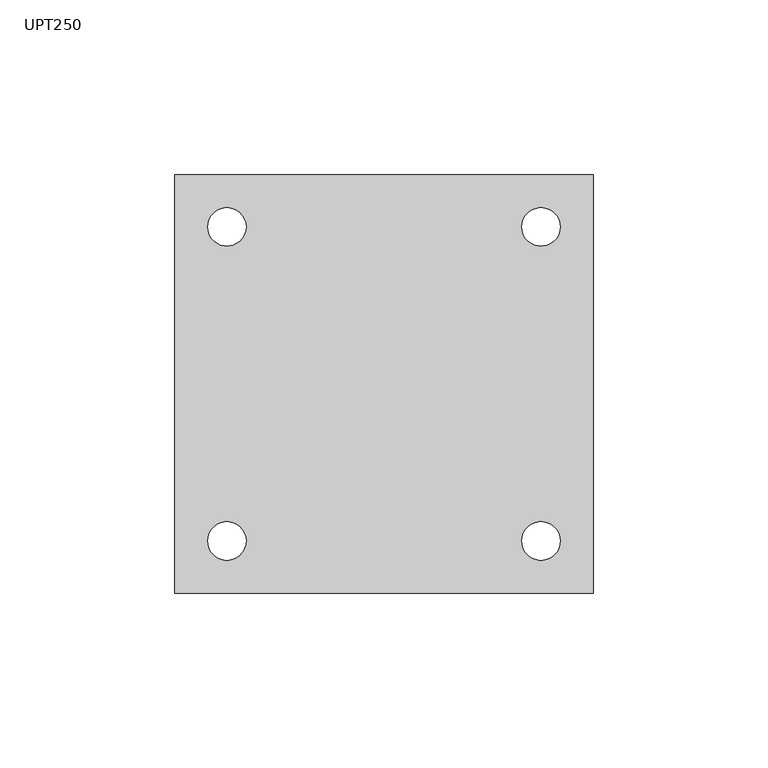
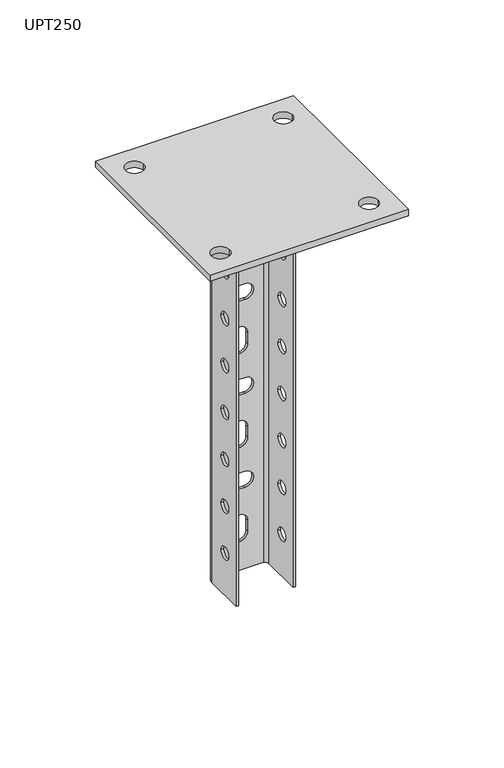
"""IFC4 building model written with IfcOpenShell, lengths in millimetres: proxy geometry, КМ Профиль_Универсальная потолочная стойка UPT : UPT250."""

from ifc_helpers import new_model, si_unit, point, frame, frame_2d, origin, place, context, project, spatial, polyline, circle_curve, trimmed, segment, composite_curve, outline, extrude, source, transform, mapped, element, save
from ifc_brep_helpers import plane_surface, cylinder_surface, revolved_surface, advanced_brep


def upt250_07c40e42(model_context):
    return source(origin(), model_context, "Body", "SolidModel", [
        advanced_brep(
        [(18.0, -14.5, -4.0), (18.0, 11.0, -4.0), (14.5, 14.5, -4.0), (-14.5, 14.5, -4.0), (-18.0, 11.0, -4.0), (-18.0, -14.5, -4.0), (-16.5, -14.5, -4.0), (-16.5, 11.0, -4.0), (-14.5, 13.0, -4.0), (14.5, 13.0, -4.0), (16.5, 11.0, -4.0), (16.5, -14.5, -4.0), (18.0, 11.0, -254.0), (18.0, -14.5, -254.0), (16.5, -14.5, -254.0), (16.5, 11.0, -254.0), (14.5, 13.0, -254.0), (-14.5, 13.0, -254.0), (-16.5, 11.0, -254.0), (-16.5, -14.5, -254.0), (-18.0, -14.5, -254.0), (-18.0, 11.0, -254.0), (-14.5, 14.5, -254.0), (14.5, 14.5, -254.0), (18.0, -7.0, -47.0), (18.0, 1.0, -47.0), (18.0, -7.0, -77.0), (18.0, 1.0, -77.0), (18.0, -7.0, -107.0), (18.0, 1.0, -107.0), (18.0, -7.0, -137.0), (18.0, 1.0, -137.0), (18.0, -7.0, -167.0), (18.0, 1.0, -167.0), (18.0, -7.0, -197.0), (18.0, 1.0, -197.0), (18.0, -7.0, -227.0), (18.0, 1.0, -227.0), (18.0, -7.0, -17.0), (18.0, 1.0, -17.0), (3.5, 14.5, -132.0), (-3.5, 14.5, -132.0), (-3.5, 14.5, -142.0), (3.5, 14.5, -142.0), (3.5, 14.5, -192.0), (-3.5, 14.5, -192.0), (-3.5, 14.5, -202.0), (3.5, 14.5, -202.0), (3.5, 14.5, -72.0), (-3.5, 14.5, -72.0), (-3.5, 14.5, -82.0), (3.5, 14.5, -82.0), (-5.0, 14.5, -103.5), (-5.0, 14.5, -110.5), (5.0, 14.5, -110.5), (5.0, 14.5, -103.5), (-5.0, 14.5, -163.5), (-5.0, 14.5, -170.5), (5.0, 14.5, -170.5), (5.0, 14.5, -163.5), (-5.0, 14.5, -223.5), (-5.0, 14.5, -230.5), (5.0, 14.5, -230.5), (5.0, 14.5, -223.5), (-5.0, 14.5, -43.5), (-5.0, 14.5, -50.5), (5.0, 14.5, -50.5), (5.0, 14.5, -43.5), (3.5, 14.5, -12.0), (-3.5, 14.5, -12.0), (-3.5, 14.5, -22.0), (3.5, 14.5, -22.0), (-18.0, -7.0, -17.0), (-18.0, 1.0, -17.0), (-18.0, -7.0, -47.0), (-18.0, 1.0, -47.0), (-18.0, -7.0, -77.0), (-18.0, 1.0, -77.0), (-18.0, -7.0, -107.0), (-18.0, 1.0, -107.0), (-18.0, -7.0, -137.0), (-18.0, 1.0, -137.0), (-18.0, -7.0, -167.0), (-18.0, 1.0, -167.0), (-18.0, -7.0, -197.0), (-18.0, 1.0, -197.0), (-18.0, -7.0, -227.0), (-18.0, 1.0, -227.0), (-16.5, 1.0, -17.0), (-16.5, -7.0, -17.0), (-16.5, 1.0, -47.0), (-16.5, -7.0, -47.0), (-16.5, 1.0, -77.0), (-16.5, -7.0, -77.0), (-16.5, 1.0, -107.0), (-16.5, -7.0, -107.0), (-16.5, 1.0, -137.0), (-16.5, -7.0, -137.0), (-16.5, 1.0, -167.0), (-16.5, -7.0, -167.0), (-16.5, 1.0, -197.0), (-16.5, -7.0, -197.0), (-16.5, 1.0, -227.0), (-16.5, -7.0, -227.0), (-3.5, 13.0, -132.0), (3.5, 13.0, -132.0), (3.5, 13.0, -142.0), (-3.5, 13.0, -142.0), (-3.5, 13.0, -192.0), (3.5, 13.0, -192.0), (3.5, 13.0, -202.0), (-3.5, 13.0, -202.0), (-3.5, 13.0, -72.0), (3.5, 13.0, -72.0), (3.5, 13.0, -82.0), (-3.5, 13.0, -82.0), (-5.0, 13.0, -110.5), (-5.0, 13.0, -103.5), (5.0, 13.0, -103.5), (5.0, 13.0, -110.5), (-5.0, 13.0, -170.5), (-5.0, 13.0, -163.5), (5.0, 13.0, -163.5), (5.0, 13.0, -170.5), (-5.0, 13.0, -230.5), (-5.0, 13.0, -223.5), (5.0, 13.0, -223.5), (5.0, 13.0, -230.5), (-5.0, 13.0, -50.5), (-5.0, 13.0, -43.5), (5.0, 13.0, -43.5), (5.0, 13.0, -50.5), (-3.5, 13.0, -12.0), (3.5, 13.0, -12.0), (3.5, 13.0, -22.0), (-3.5, 13.0, -22.0), (16.5, 1.0, -47.0), (16.5, -7.0, -47.0), (16.5, 1.0, -77.0), (16.5, -7.0, -77.0), (16.5, 1.0, -107.0), (16.5, -7.0, -107.0), (16.5, 1.0, -137.0), (16.5, -7.0, -137.0), (16.5, 1.0, -167.0), (16.5, -7.0, -167.0), (16.5, 1.0, -197.0), (16.5, -7.0, -197.0), (16.5, 1.0, -227.0), (16.5, -7.0, -227.0), (16.5, 1.0, -17.0), (16.5, -7.0, -17.0)],
        [
            (0, 1),
            (1, 2, circle_curve(frame((14.5, 11.0, -4.0), z_axis=(0.0, 0.0, 1.0), x_axis=(1.0, 0.0, 0.0)), 3.5)),
            (2, 3),
            (3, 4, circle_curve(frame((-14.5, 11.0, -4.0), z_axis=(0.0, 0.0, 1.0), x_axis=(1.0, 0.0, 0.0)), 3.5)),
            (4, 5),
            (5, 6),
            (6, 7),
            (7, 8, circle_curve(frame((-14.5, 11.0, -4.0), z_axis=(0.0, 0.0, -1.0), x_axis=(1.0, 0.0, 0.0)), 2.0)),
            (8, 9),
            (9, 10, circle_curve(frame((14.5, 11.0, -4.0), z_axis=(0.0, 0.0, -1.0), x_axis=(1.0, 0.0, 0.0)), 2.0)),
            (10, 11),
            (11, 0),
            (12, 13),
            (13, 14),
            (14, 15),
            (15, 16, circle_curve(frame((14.5, 11.0, -254.0), z_axis=(0.0, 0.0, 1.0), x_axis=(1.0, 0.0, 0.0)), 2.0)),
            (16, 17),
            (17, 18, circle_curve(frame((-14.5, 11.0, -254.0), z_axis=(0.0, 0.0, 1.0), x_axis=(1.0, 0.0, 0.0)), 2.0)),
            (18, 19),
            (19, 20),
            (20, 21),
            (21, 22, circle_curve(frame((-14.5, 11.0, -254.0), z_axis=(0.0, 0.0, -1.0), x_axis=(1.0, 0.0, 0.0)), 3.5)),
            (22, 23),
            (23, 12, circle_curve(frame((14.5, 11.0, -254.0), z_axis=(0.0, 0.0, -1.0), x_axis=(1.0, 0.0, 0.0)), 3.5)),
            (0, 13),
            (12, 1),
            (24, 25, circle_curve(frame((18.0, -3.0, -47.0), z_axis=(-1.0, 0.0, 0.0), x_axis=(0.0, -1.0, 0.0)), 4.0)),
            (25, 24, circle_curve(frame((18.0, -3.0, -47.0), z_axis=(-1.0, 0.0, 0.0), x_axis=(0.0, -1.0, 0.0)), 4.0)),
            (26, 27, circle_curve(frame((18.0, -3.0, -77.0), z_axis=(-1.0, 0.0, 0.0), x_axis=(0.0, -1.0, 0.0)), 4.0)),
            (27, 26, circle_curve(frame((18.0, -3.0, -77.0), z_axis=(-1.0, 0.0, 0.0), x_axis=(0.0, -1.0, 0.0)), 4.0)),
            (28, 29, circle_curve(frame((18.0, -3.0, -107.0), z_axis=(-1.0, 0.0, 0.0), x_axis=(0.0, -1.0, 0.0)), 4.0)),
            (29, 28, circle_curve(frame((18.0, -3.0, -107.0), z_axis=(-1.0, 0.0, 0.0), x_axis=(0.0, -1.0, 0.0)), 4.0)),
            (30, 31, circle_curve(frame((18.0, -3.0, -137.0), z_axis=(-1.0, 0.0, 0.0), x_axis=(0.0, -1.0, 0.0)), 4.0)),
            (31, 30, circle_curve(frame((18.0, -3.0, -137.0), z_axis=(-1.0, 0.0, 0.0), x_axis=(0.0, -1.0, 0.0)), 4.0)),
            (32, 33, circle_curve(frame((18.0, -3.0, -167.0), z_axis=(-1.0, 0.0, 0.0), x_axis=(0.0, -1.0, 0.0)), 4.0)),
            (33, 32, circle_curve(frame((18.0, -3.0, -167.0), z_axis=(-1.0, 0.0, 0.0), x_axis=(0.0, -1.0, 0.0)), 4.0)),
            (34, 35, circle_curve(frame((18.0, -3.0, -197.0), z_axis=(-1.0, 0.0, 0.0), x_axis=(0.0, -1.0, 0.0)), 4.0)),
            (35, 34, circle_curve(frame((18.0, -3.0, -197.0), z_axis=(-1.0, 0.0, 0.0), x_axis=(0.0, -1.0, 0.0)), 4.0)),
            (36, 37, circle_curve(frame((18.0, -3.0, -227.0), z_axis=(-1.0, 0.0, 0.0), x_axis=(0.0, -1.0, 0.0)), 4.0)),
            (37, 36, circle_curve(frame((18.0, -3.0, -227.0), z_axis=(-1.0, 0.0, 0.0), x_axis=(0.0, -1.0, 0.0)), 4.0)),
            (38, 39, circle_curve(frame((18.0, -3.0, -17.0), z_axis=(-1.0, 0.0, 0.0), x_axis=(0.0, -1.0, 0.0)), 4.0)),
            (39, 38, circle_curve(frame((18.0, -3.0, -17.0), z_axis=(-1.0, 0.0, 0.0), x_axis=(0.0, -1.0, 0.0)), 4.0)),
            (23, 2),
            (22, 3),
            (40, 41),
            (41, 42, circle_curve(frame((-3.5, 14.5, -137.0), z_axis=(0.0, -1.0, 0.0), x_axis=(-1.0, 0.0, 0.0)), 5.0)),
            (42, 43),
            (43, 40, circle_curve(frame((3.5, 14.5, -137.0), z_axis=(0.0, -1.0, 0.0), x_axis=(-1.0, 0.0, 0.0)), 5.0)),
            (44, 45),
            (45, 46, circle_curve(frame((-3.5, 14.5, -197.0), z_axis=(0.0, -1.0, 0.0), x_axis=(-1.0, 0.0, 0.0)), 5.0)),
            (46, 47),
            (47, 44, circle_curve(frame((3.5, 14.5, -197.0), z_axis=(0.0, -1.0, 0.0), x_axis=(-1.0, 0.0, 0.0)), 5.0)),
            (48, 49),
            (49, 50, circle_curve(frame((-3.5, 14.5, -77.0), z_axis=(0.0, -1.0, 0.0), x_axis=(-1.0, 0.0, 0.0)), 5.0)),
            (50, 51),
            (51, 48, circle_curve(frame((3.5, 14.5, -77.0), z_axis=(0.0, -1.0, 0.0), x_axis=(-1.0, 0.0, 0.0)), 5.0)),
            (52, 53),
            (53, 54, circle_curve(frame((0.0, 14.5, -110.5), z_axis=(0.0, -1.0, 0.0), x_axis=(0.0, 0.0, -1.0)), 5.0)),
            (54, 55),
            (55, 52, circle_curve(frame((0.0, 14.5, -103.5), z_axis=(0.0, -1.0, 0.0), x_axis=(0.0, 0.0, -1.0)), 5.0)),
            (56, 57),
            (57, 58, circle_curve(frame((0.0, 14.5, -170.5), z_axis=(0.0, -1.0, 0.0), x_axis=(0.0, 0.0, -1.0)), 5.0)),
            (58, 59),
            (59, 56, circle_curve(frame((0.0, 14.5, -163.5), z_axis=(0.0, -1.0, 0.0), x_axis=(0.0, 0.0, -1.0)), 5.0)),
            (60, 61),
            (61, 62, circle_curve(frame((0.0, 14.5, -230.5), z_axis=(0.0, -1.0, 0.0), x_axis=(0.0, 0.0, -1.0)), 5.0)),
            (62, 63),
            (63, 60, circle_curve(frame((0.0, 14.5, -223.5), z_axis=(0.0, -1.0, 0.0), x_axis=(0.0, 0.0, -1.0)), 5.0)),
            (64, 65),
            (65, 66, circle_curve(frame((0.0, 14.5, -50.5), z_axis=(0.0, -1.0, 0.0), x_axis=(0.0, 0.0, -1.0)), 5.0)),
            (66, 67),
            (67, 64, circle_curve(frame((0.0, 14.5, -43.5), z_axis=(0.0, -1.0, 0.0), x_axis=(0.0, 0.0, -1.0)), 5.0)),
            (68, 69),
            (69, 70, circle_curve(frame((-3.5, 14.5, -17.0), z_axis=(0.0, -1.0, 0.0), x_axis=(-1.0, 0.0, 0.0)), 5.0)),
            (70, 71),
            (71, 68, circle_curve(frame((3.5, 14.5, -17.0), z_axis=(0.0, -1.0, 0.0), x_axis=(-1.0, 0.0, 0.0)), 5.0)),
            (21, 4),
            (20, 5),
            (72, 73, circle_curve(frame((-18.0, -3.0, -17.0), z_axis=(1.0, 0.0, 0.0), x_axis=(0.0, -1.0, 0.0)), 4.0)),
            (73, 72, circle_curve(frame((-18.0, -3.0, -17.0), z_axis=(1.0, 0.0, 0.0), x_axis=(0.0, -1.0, 0.0)), 4.0)),
            (74, 75, circle_curve(frame((-18.0, -3.0, -47.0), z_axis=(1.0, 0.0, 0.0), x_axis=(0.0, -1.0, 0.0)), 4.0)),
            (75, 74, circle_curve(frame((-18.0, -3.0, -47.0), z_axis=(1.0, 0.0, 0.0), x_axis=(0.0, -1.0, 0.0)), 4.0)),
            (76, 77, circle_curve(frame((-18.0, -3.0, -77.0), z_axis=(1.0, 0.0, 0.0), x_axis=(0.0, -1.0, 0.0)), 4.0)),
            (77, 76, circle_curve(frame((-18.0, -3.0, -77.0), z_axis=(1.0, 0.0, 0.0), x_axis=(0.0, -1.0, 0.0)), 4.0)),
            (78, 79, circle_curve(frame((-18.0, -3.0, -107.0), z_axis=(1.0, 0.0, 0.0), x_axis=(0.0, -1.0, 0.0)), 4.0)),
            (79, 78, circle_curve(frame((-18.0, -3.0, -107.0), z_axis=(1.0, 0.0, 0.0), x_axis=(0.0, -1.0, 0.0)), 4.0)),
            (80, 81, circle_curve(frame((-18.0, -3.0, -137.0), z_axis=(1.0, 0.0, 0.0), x_axis=(0.0, -1.0, 0.0)), 4.0)),
            (81, 80, circle_curve(frame((-18.0, -3.0, -137.0), z_axis=(1.0, 0.0, 0.0), x_axis=(0.0, -1.0, 0.0)), 4.0)),
            (82, 83, circle_curve(frame((-18.0, -3.0, -167.0), z_axis=(1.0, 0.0, 0.0), x_axis=(0.0, -1.0, 0.0)), 4.0)),
            (83, 82, circle_curve(frame((-18.0, -3.0, -167.0), z_axis=(1.0, 0.0, 0.0), x_axis=(0.0, -1.0, 0.0)), 4.0)),
            (84, 85, circle_curve(frame((-18.0, -3.0, -197.0), z_axis=(1.0, 0.0, 0.0), x_axis=(0.0, -1.0, 0.0)), 4.0)),
            (85, 84, circle_curve(frame((-18.0, -3.0, -197.0), z_axis=(1.0, 0.0, 0.0), x_axis=(0.0, -1.0, 0.0)), 4.0)),
            (86, 87, circle_curve(frame((-18.0, -3.0, -227.0), z_axis=(1.0, 0.0, 0.0), x_axis=(0.0, -1.0, 0.0)), 4.0)),
            (87, 86, circle_curve(frame((-18.0, -3.0, -227.0), z_axis=(1.0, 0.0, 0.0), x_axis=(0.0, -1.0, 0.0)), 4.0)),
            (19, 6),
            (18, 7),
            (88, 89, circle_curve(frame((-16.5, -3.0, -17.0), z_axis=(-1.0, 0.0, 0.0), x_axis=(0.0, -1.0, 0.0)), 4.0)),
            (89, 88, circle_curve(frame((-16.5, -3.0, -17.0), z_axis=(-1.0, 0.0, 0.0), x_axis=(0.0, -1.0, 0.0)), 4.0)),
            (90, 91, circle_curve(frame((-16.5, -3.0, -47.0), z_axis=(-1.0, 0.0, 0.0), x_axis=(0.0, -1.0, 0.0)), 4.0)),
            (91, 90, circle_curve(frame((-16.5, -3.0, -47.0), z_axis=(-1.0, 0.0, 0.0), x_axis=(0.0, -1.0, 0.0)), 4.0)),
            (92, 93, circle_curve(frame((-16.5, -3.0, -77.0), z_axis=(-1.0, 0.0, 0.0), x_axis=(0.0, -1.0, 0.0)), 4.0)),
            (93, 92, circle_curve(frame((-16.5, -3.0, -77.0), z_axis=(-1.0, 0.0, 0.0), x_axis=(0.0, -1.0, 0.0)), 4.0)),
            (94, 95, circle_curve(frame((-16.5, -3.0, -107.0), z_axis=(-1.0, 0.0, 0.0), x_axis=(0.0, -1.0, 0.0)), 4.0)),
            (95, 94, circle_curve(frame((-16.5, -3.0, -107.0), z_axis=(-1.0, 0.0, 0.0), x_axis=(0.0, -1.0, 0.0)), 4.0)),
            (96, 97, circle_curve(frame((-16.5, -3.0, -137.0), z_axis=(-1.0, 0.0, 0.0), x_axis=(0.0, -1.0, 0.0)), 4.0)),
            (97, 96, circle_curve(frame((-16.5, -3.0, -137.0), z_axis=(-1.0, 0.0, 0.0), x_axis=(0.0, -1.0, 0.0)), 4.0)),
            (98, 99, circle_curve(frame((-16.5, -3.0, -167.0), z_axis=(-1.0, 0.0, 0.0), x_axis=(0.0, -1.0, 0.0)), 4.0)),
            (99, 98, circle_curve(frame((-16.5, -3.0, -167.0), z_axis=(-1.0, 0.0, 0.0), x_axis=(0.0, -1.0, 0.0)), 4.0)),
            (100, 101, circle_curve(frame((-16.5, -3.0, -197.0), z_axis=(-1.0, 0.0, 0.0), x_axis=(0.0, -1.0, 0.0)), 4.0)),
            (101, 100, circle_curve(frame((-16.5, -3.0, -197.0), z_axis=(-1.0, 0.0, 0.0), x_axis=(0.0, -1.0, 0.0)), 4.0)),
            (102, 103, circle_curve(frame((-16.5, -3.0, -227.0), z_axis=(-1.0, 0.0, 0.0), x_axis=(0.0, -1.0, 0.0)), 4.0)),
            (103, 102, circle_curve(frame((-16.5, -3.0, -227.0), z_axis=(-1.0, 0.0, 0.0), x_axis=(0.0, -1.0, 0.0)), 4.0)),
            (17, 8),
            (16, 9),
            (104, 105),
            (105, 106, circle_curve(frame((3.5, 13.0, -137.0), z_axis=(0.0, 1.0, 0.0), x_axis=(-1.0, 0.0, 0.0)), 5.0)),
            (106, 107),
            (107, 104, circle_curve(frame((-3.5, 13.0, -137.0), z_axis=(0.0, 1.0, 0.0), x_axis=(-1.0, 0.0, 0.0)), 5.0)),
            (108, 109),
            (109, 110, circle_curve(frame((3.5, 13.0, -197.0), z_axis=(0.0, 1.0, 0.0), x_axis=(-1.0, 0.0, 0.0)), 5.0)),
            (110, 111),
            (111, 108, circle_curve(frame((-3.5, 13.0, -197.0), z_axis=(0.0, 1.0, 0.0), x_axis=(-1.0, 0.0, 0.0)), 5.0)),
            (112, 113),
            (113, 114, circle_curve(frame((3.5, 13.0, -77.0), z_axis=(0.0, 1.0, 0.0), x_axis=(-1.0, 0.0, 0.0)), 5.0)),
            (114, 115),
            (115, 112, circle_curve(frame((-3.5, 13.0, -77.0), z_axis=(0.0, 1.0, 0.0), x_axis=(-1.0, 0.0, 0.0)), 5.0)),
            (116, 117),
            (117, 118, circle_curve(frame((0.0, 13.0, -103.5), z_axis=(0.0, 1.0, 0.0), x_axis=(0.0, 0.0, -1.0)), 5.0)),
            (118, 119),
            (119, 116, circle_curve(frame((0.0, 13.0, -110.5), z_axis=(0.0, 1.0, 0.0), x_axis=(0.0, 0.0, -1.0)), 5.0)),
            (120, 121),
            (121, 122, circle_curve(frame((0.0, 13.0, -163.5), z_axis=(0.0, 1.0, 0.0), x_axis=(0.0, 0.0, -1.0)), 5.0)),
            (122, 123),
            (123, 120, circle_curve(frame((0.0, 13.0, -170.5), z_axis=(0.0, 1.0, 0.0), x_axis=(0.0, 0.0, -1.0)), 5.0)),
            (124, 125),
            (125, 126, circle_curve(frame((0.0, 13.0, -223.5), z_axis=(0.0, 1.0, 0.0), x_axis=(0.0, 0.0, -1.0)), 5.0)),
            (126, 127),
            (127, 124, circle_curve(frame((0.0, 13.0, -230.5), z_axis=(0.0, 1.0, 0.0), x_axis=(0.0, 0.0, -1.0)), 5.0)),
            (128, 129),
            (129, 130, circle_curve(frame((0.0, 13.0, -43.5), z_axis=(0.0, 1.0, 0.0), x_axis=(0.0, 0.0, -1.0)), 5.0)),
            (130, 131),
            (131, 128, circle_curve(frame((0.0, 13.0, -50.5), z_axis=(0.0, 1.0, 0.0), x_axis=(0.0, 0.0, -1.0)), 5.0)),
            (132, 133),
            (133, 134, circle_curve(frame((3.5, 13.0, -17.0), z_axis=(0.0, 1.0, 0.0), x_axis=(-1.0, 0.0, 0.0)), 5.0)),
            (134, 135),
            (135, 132, circle_curve(frame((-3.5, 13.0, -17.0), z_axis=(0.0, 1.0, 0.0), x_axis=(-1.0, 0.0, 0.0)), 5.0)),
            (15, 10),
            (14, 11),
            (136, 137, circle_curve(frame((16.5, -3.0, -47.0), z_axis=(1.0, 0.0, 0.0), x_axis=(0.0, -1.0, 0.0)), 4.0)),
            (137, 136, circle_curve(frame((16.5, -3.0, -47.0), z_axis=(1.0, 0.0, 0.0), x_axis=(0.0, -1.0, 0.0)), 4.0)),
            (138, 139, circle_curve(frame((16.5, -3.0, -77.0), z_axis=(1.0, 0.0, 0.0), x_axis=(0.0, -1.0, 0.0)), 4.0)),
            (139, 138, circle_curve(frame((16.5, -3.0, -77.0), z_axis=(1.0, 0.0, 0.0), x_axis=(0.0, -1.0, 0.0)), 4.0)),
            (140, 141, circle_curve(frame((16.5, -3.0, -107.0), z_axis=(1.0, 0.0, 0.0), x_axis=(0.0, -1.0, 0.0)), 4.0)),
            (141, 140, circle_curve(frame((16.5, -3.0, -107.0), z_axis=(1.0, 0.0, 0.0), x_axis=(0.0, -1.0, 0.0)), 4.0)),
            (142, 143, circle_curve(frame((16.5, -3.0, -137.0), z_axis=(1.0, 0.0, 0.0), x_axis=(0.0, -1.0, 0.0)), 4.0)),
            (143, 142, circle_curve(frame((16.5, -3.0, -137.0), z_axis=(1.0, 0.0, 0.0), x_axis=(0.0, -1.0, 0.0)), 4.0)),
            (144, 145, circle_curve(frame((16.5, -3.0, -167.0), z_axis=(1.0, 0.0, 0.0), x_axis=(0.0, -1.0, 0.0)), 4.0)),
            (145, 144, circle_curve(frame((16.5, -3.0, -167.0), z_axis=(1.0, 0.0, 0.0), x_axis=(0.0, -1.0, 0.0)), 4.0)),
            (146, 147, circle_curve(frame((16.5, -3.0, -197.0), z_axis=(1.0, 0.0, 0.0), x_axis=(0.0, -1.0, 0.0)), 4.0)),
            (147, 146, circle_curve(frame((16.5, -3.0, -197.0), z_axis=(1.0, 0.0, 0.0), x_axis=(0.0, -1.0, 0.0)), 4.0)),
            (148, 149, circle_curve(frame((16.5, -3.0, -227.0), z_axis=(1.0, 0.0, 0.0), x_axis=(0.0, -1.0, 0.0)), 4.0)),
            (149, 148, circle_curve(frame((16.5, -3.0, -227.0), z_axis=(1.0, 0.0, 0.0), x_axis=(0.0, -1.0, 0.0)), 4.0)),
            (150, 151, circle_curve(frame((16.5, -3.0, -17.0), z_axis=(1.0, 0.0, 0.0), x_axis=(0.0, -1.0, 0.0)), 4.0)),
            (151, 150, circle_curve(frame((16.5, -3.0, -17.0), z_axis=(1.0, 0.0, 0.0), x_axis=(0.0, -1.0, 0.0)), 4.0)),
            (40, 105),
            (104, 41),
            (43, 106),
            (42, 107),
            (44, 109),
            (108, 45),
            (47, 110),
            (46, 111),
            (48, 113),
            (112, 49),
            (51, 114),
            (50, 115),
            (52, 117),
            (116, 53),
            (55, 118),
            (54, 119),
            (56, 121),
            (120, 57),
            (59, 122),
            (58, 123),
            (60, 125),
            (124, 61),
            (63, 126),
            (62, 127),
            (72, 89),
            (88, 73),
            (24, 137),
            (136, 25),
            (74, 91),
            (90, 75),
            (26, 139),
            (138, 27),
            (76, 93),
            (92, 77),
            (28, 141),
            (140, 29),
            (78, 95),
            (94, 79),
            (30, 143),
            (142, 31),
            (80, 97),
            (96, 81),
            (32, 145),
            (144, 33),
            (82, 99),
            (98, 83),
            (34, 147),
            (146, 35),
            (84, 101),
            (100, 85),
            (36, 149),
            (148, 37),
            (86, 103),
            (102, 87),
            (38, 151),
            (150, 39),
            (64, 129),
            (128, 65),
            (67, 130),
            (66, 131),
            (68, 133),
            (132, 69),
            (71, 134),
            (70, 135),
        ],
        [
            plane_surface(frame((18.0, 11.0, -4.0), z_axis=(0.0, 0.0, 1.0), x_axis=(0.0, 1.0, 0.0))),
            plane_surface(frame((18.0, 11.0, -254.0), z_axis=(0.0, 0.0, -1.0), x_axis=(0.0, -1.0, 0.0))),
            plane_surface(frame((18.0, -14.5, -4.0), z_axis=(1.0, 0.0, 0.0), x_axis=(0.0, 0.0, -1.0))),
            cylinder_surface(frame((14.5, 11.0, -254.0), z_axis=(0.0, 0.0, 1.0), x_axis=(1.0, 0.0, 0.0)), 3.5),
            plane_surface(frame((14.5, 14.5, -4.0), z_axis=(0.0, 1.0, 0.0), x_axis=(0.0, 0.0, -1.0))),
            cylinder_surface(frame((-14.5, 11.0, -254.0), z_axis=(0.0, 0.0, 1.0), x_axis=(1.0, 0.0, 0.0)), 3.5),
            plane_surface(frame((-18.0, 11.0, -4.0), z_axis=(-1.0, 0.0, 0.0), x_axis=(0.0, 0.0, -1.0))),
            plane_surface(frame((-18.0, -14.5, -4.0), z_axis=(0.0, -1.0, 0.0), x_axis=(0.0, 0.0, -1.0))),
            plane_surface(frame((-16.5, -14.5, -4.0), z_axis=(1.0, 0.0, 0.0), x_axis=(0.0, 0.0, -1.0))),
            revolved_surface(polyline([(-12.5, 11.0, -254.0), (-12.5, 11.0, -4.0)]), (-14.5, 11.0, -254.0), (0.0, 0.0, -1.0)),
            plane_surface(frame((-14.5, 13.0, -4.0), z_axis=(0.0, -1.0, 0.0), x_axis=(0.0, 0.0, -1.0))),
            revolved_surface(polyline([(16.5, 11.0, -254.0), (16.5, 11.0, -4.0)]), (14.5, 11.0, -254.0), (0.0, 0.0, -1.0)),
            plane_surface(frame((16.5, 11.0, -4.0), z_axis=(-1.0, 0.0, 0.0), x_axis=(0.0, 0.0, -1.0))),
            plane_surface(frame((16.5, -14.5, -4.0), z_axis=(0.0, -1.0, 0.0), x_axis=(0.0, 0.0, -1.0))),
            plane_surface(frame((-3.5, 14.5, -132.0), z_axis=(0.0, 0.0, -1.0), x_axis=(0.0, -1.0, 0.0))),
            revolved_surface(polyline([(-1.5, 14.5, -137.0), (-1.5, 13.0, -137.0)]), (3.5, 13.0, -137.0), (0.0, 1.0, 0.0)),
            plane_surface(frame((3.5, 14.5, -142.0), z_axis=(0.0, 0.0, 1.0), x_axis=(0.0, -1.0, 0.0))),
            revolved_surface(polyline([(-8.5, 14.5, -137.0), (-8.5, 13.0, -137.0)]), (-3.5, 13.0, -137.0), (0.0, 1.0, 0.0)),
            plane_surface(frame((-3.5, 14.5, -192.0), z_axis=(0.0, 0.0, -1.0), x_axis=(0.0, -1.0, 0.0))),
            revolved_surface(polyline([(-1.5, 14.5, -197.0), (-1.5, 13.0, -197.0)]), (3.5, 13.0, -197.0), (0.0, 1.0, 0.0)),
            plane_surface(frame((3.5, 14.5, -202.0), z_axis=(0.0, 0.0, 1.0), x_axis=(0.0, -1.0, 0.0))),
            revolved_surface(polyline([(-8.5, 14.5, -197.0), (-8.5, 13.0, -197.0)]), (-3.5, 13.0, -197.0), (0.0, 1.0, 0.0)),
            plane_surface(frame((-3.5, 14.5, -72.0), z_axis=(0.0, 0.0, -1.0), x_axis=(0.0, -1.0, 0.0))),
            revolved_surface(polyline([(-1.5, 14.5, -77.0), (-1.5, 13.0, -77.0)]), (3.5, 13.0, -77.0), (0.0, 1.0, 0.0)),
            plane_surface(frame((3.5, 14.5, -82.0), z_axis=(0.0, 0.0, 1.0), x_axis=(0.0, -1.0, 0.0))),
            revolved_surface(polyline([(-8.5, 14.5, -77.0), (-8.5, 13.0, -77.0)]), (-3.5, 13.0, -77.0), (0.0, 1.0, 0.0)),
            plane_surface(frame((-5.0, 14.5, -110.5), z_axis=(1.0, 0.0, 0.0), x_axis=(0.0, -1.0, 0.0))),
            revolved_surface(polyline([(0.0, 14.5, -108.5), (0.0, 13.0, -108.5)]), (0.0, 13.0, -103.5), (0.0, 1.0, 0.0)),
            plane_surface(frame((5.0, 14.5, -103.5), z_axis=(-1.0, 0.0, 0.0), x_axis=(0.0, -1.0, 0.0))),
            revolved_surface(polyline([(0.0, 14.5, -115.5), (0.0, 13.0, -115.5)]), (0.0, 13.0, -110.5), (0.0, 1.0, 0.0)),
            plane_surface(frame((-5.0, 14.5, -170.5), z_axis=(1.0, 0.0, 0.0), x_axis=(0.0, -1.0, 0.0))),
            revolved_surface(polyline([(0.0, 14.5, -168.5), (0.0, 13.0, -168.5)]), (0.0, 13.0, -163.5), (0.0, 1.0, 0.0)),
            plane_surface(frame((5.0, 14.5, -163.5), z_axis=(-1.0, 0.0, 0.0), x_axis=(0.0, -1.0, 0.0))),
            revolved_surface(polyline([(0.0, 14.5, -175.5), (0.0, 13.0, -175.5)]), (0.0, 13.0, -170.5), (0.0, 1.0, 0.0)),
            plane_surface(frame((-5.0, 14.5, -230.5), z_axis=(1.0, 0.0, 0.0), x_axis=(0.0, -1.0, 0.0))),
            revolved_surface(polyline([(0.0, 14.5, -228.5), (0.0, 13.0, -228.5)]), (0.0, 13.0, -223.5), (0.0, 1.0, 0.0)),
            plane_surface(frame((5.0, 14.5, -223.5), z_axis=(-1.0, 0.0, 0.0), x_axis=(0.0, -1.0, 0.0))),
            revolved_surface(polyline([(0.0, 14.5, -235.5), (0.0, 13.0, -235.5)]), (0.0, 13.0, -230.5), (0.0, 1.0, 0.0)),
            revolved_surface(polyline([(-18.0, -7.0, -17.0), (-16.5, -7.0, -17.0)]), (-16.5, -3.0, -17.0), (-1.0, 0.0, 0.0)),
            revolved_surface(polyline([(18.0, -7.0, -47.0), (16.5, -7.0, -47.0)]), (16.5, -3.0, -47.0), (1.0, 0.0, 0.0)),
            revolved_surface(polyline([(-18.0, -7.0, -47.0), (-16.5, -7.0, -47.0)]), (-16.5, -3.0, -47.0), (-1.0, 0.0, 0.0)),
            revolved_surface(polyline([(18.0, -7.0, -77.0), (16.5, -7.0, -77.0)]), (16.5, -3.0, -77.0), (1.0, 0.0, 0.0)),
            revolved_surface(polyline([(-18.0, -7.0, -77.0), (-16.5, -7.0, -77.0)]), (-16.5, -3.0, -77.0), (-1.0, 0.0, 0.0)),
            revolved_surface(polyline([(18.0, -7.0, -107.0), (16.5, -7.0, -107.0)]), (16.5, -3.0, -107.0), (1.0, 0.0, 0.0)),
            revolved_surface(polyline([(-18.0, -7.0, -107.0), (-16.5, -7.0, -107.0)]), (-16.5, -3.0, -107.0), (-1.0, 0.0, 0.0)),
            revolved_surface(polyline([(18.0, -7.0, -137.0), (16.5, -7.0, -137.0)]), (16.5, -3.0, -137.0), (1.0, 0.0, 0.0)),
            revolved_surface(polyline([(-18.0, -7.0, -137.0), (-16.5, -7.0, -137.0)]), (-16.5, -3.0, -137.0), (-1.0, 0.0, 0.0)),
            revolved_surface(polyline([(18.0, -7.0, -167.0), (16.5, -7.0, -167.0)]), (16.5, -3.0, -167.0), (1.0, 0.0, 0.0)),
            revolved_surface(polyline([(-18.0, -7.0, -167.0), (-16.5, -7.0, -167.0)]), (-16.5, -3.0, -167.0), (-1.0, 0.0, 0.0)),
            revolved_surface(polyline([(18.0, -7.0, -197.0), (16.5, -7.0, -197.0)]), (16.5, -3.0, -197.0), (1.0, 0.0, 0.0)),
            revolved_surface(polyline([(-18.0, -7.0, -197.0), (-16.5, -7.0, -197.0)]), (-16.5, -3.0, -197.0), (-1.0, 0.0, 0.0)),
            revolved_surface(polyline([(18.0, -7.0, -227.0), (16.5, -7.0, -227.0)]), (16.5, -3.0, -227.0), (1.0, 0.0, 0.0)),
            revolved_surface(polyline([(-18.0, -7.0, -227.0), (-16.5, -7.0, -227.0)]), (-16.5, -3.0, -227.0), (-1.0, 0.0, 0.0)),
            revolved_surface(polyline([(18.0, -7.0, -17.0), (16.5, -7.0, -17.0)]), (16.5, -3.0, -17.0), (1.0, 0.0, 0.0)),
            plane_surface(frame((-5.0, 14.5, -50.5), z_axis=(1.0, 0.0, 0.0), x_axis=(0.0, -1.0, 0.0))),
            revolved_surface(polyline([(0.0, 14.5, -48.5), (0.0, 13.0, -48.5)]), (0.0, 13.0, -43.5), (0.0, 1.0, 0.0)),
            plane_surface(frame((5.0, 14.5, -43.5), z_axis=(-1.0, 0.0, 0.0), x_axis=(0.0, -1.0, 0.0))),
            revolved_surface(polyline([(0.0, 14.5, -55.5), (0.0, 13.0, -55.5)]), (0.0, 13.0, -50.5), (0.0, 1.0, 0.0)),
            plane_surface(frame((-3.5, 14.5, -12.0), z_axis=(0.0, 0.0, -1.0), x_axis=(0.0, -1.0, 0.0))),
            revolved_surface(polyline([(-1.5, 14.5, -17.0), (-1.5, 13.0, -17.0)]), (3.5, 13.0, -17.0), (0.0, 1.0, 0.0)),
            plane_surface(frame((3.5, 14.5, -22.0), z_axis=(0.0, 0.0, 1.0), x_axis=(0.0, -1.0, 0.0))),
            revolved_surface(polyline([(-8.5, 14.5, -17.0), (-8.5, 13.0, -17.0)]), (-3.5, 13.0, -17.0), (0.0, 1.0, 0.0)),
        ],
        [
            (0, [[1, 2, 3, 4, 5, 6, 7, 8, 9, 10, 11, 12]]),
            (1, [[13, 14, 15, 16, 17, 18, 19, 20, 21, 22, 23, 24]]),
            (2, [[-1, 25, -13, 26], [27, 28], [29, 30], [31, 32], [33, 34], [35, 36], [37, 38], [39, 40], [41, 42]]),
            (3, [[-2, -26, -24, 43]]),
            (4, [[-3, -43, -23, 44], [45, 46, 47, 48], [49, 50, 51, 52], [53, 54, 55, 56], [57, 58, 59, 60], [61, 62, 63, 64], [65, 66, 67, 68], [69, 70, 71, 72], [73, 74, 75, 76]]),
            (5, [[-4, -44, -22, 77]]),
            (6, [[-5, -77, -21, 78], [79, 80], [81, 82], [83, 84], [85, 86], [87, 88], [89, 90], [91, 92], [93, 94]]),
            (7, [[-6, -78, -20, 95]]),
            (8, [[-7, -95, -19, 96], [97, 98], [99, 100], [101, 102], [103, 104], [105, 106], [107, 108], [109, 110], [111, 112]]),
            (9, [[-8, -96, -18, 113]]),
            (10, [[-9, -113, -17, 114], [115, 116, 117, 118], [119, 120, 121, 122], [123, 124, 125, 126], [127, 128, 129, 130], [131, 132, 133, 134], [135, 136, 137, 138], [139, 140, 141, 142], [143, 144, 145, 146]]),
            (11, [[-10, -114, -16, 147]]),
            (12, [[-11, -147, -15, 148], [149, 150], [151, 152], [153, 154], [155, 156], [157, 158], [159, 160], [161, 162], [163, 164]]),
            (13, [[-12, -148, -14, -25]]),
            (14, [[165, -115, 166, -45]]),
            (15, [[-165, -48, 167, -116]]),
            (16, [[-167, -47, 168, -117]]),
            (17, [[-166, -118, -168, -46]]),
            (18, [[169, -119, 170, -49]]),
            (19, [[-169, -52, 171, -120]]),
            (20, [[-171, -51, 172, -121]]),
            (21, [[-170, -122, -172, -50]]),
            (22, [[173, -123, 174, -53]]),
            (23, [[-173, -56, 175, -124]]),
            (24, [[-175, -55, 176, -125]]),
            (25, [[-174, -126, -176, -54]]),
            (26, [[177, -127, 178, -57]]),
            (27, [[-177, -60, 179, -128]]),
            (28, [[-179, -59, 180, -129]]),
            (29, [[-178, -130, -180, -58]]),
            (30, [[181, -131, 182, -61]]),
            (31, [[-181, -64, 183, -132]]),
            (32, [[-183, -63, 184, -133]]),
            (33, [[-182, -134, -184, -62]]),
            (34, [[185, -135, 186, -65]]),
            (35, [[-185, -68, 187, -136]]),
            (36, [[-187, -67, 188, -137]]),
            (37, [[-186, -138, -188, -66]]),
            (38, [[189, -97, 190, -79]]),
            (38, [[-189, -80, -190, -98]]),
            (39, [[191, -149, 192, -27]]),
            (39, [[-191, -28, -192, -150]]),
            (40, [[193, -99, 194, -81]]),
            (40, [[-193, -82, -194, -100]]),
            (41, [[195, -151, 196, -29]]),
            (41, [[-195, -30, -196, -152]]),
            (42, [[197, -101, 198, -83]]),
            (42, [[-197, -84, -198, -102]]),
            (43, [[199, -153, 200, -31]]),
            (43, [[-199, -32, -200, -154]]),
            (44, [[201, -103, 202, -85]]),
            (44, [[-201, -86, -202, -104]]),
            (45, [[203, -155, 204, -33]]),
            (45, [[-203, -34, -204, -156]]),
            (46, [[205, -105, 206, -87]]),
            (46, [[-205, -88, -206, -106]]),
            (47, [[207, -157, 208, -35]]),
            (47, [[-207, -36, -208, -158]]),
            (48, [[209, -107, 210, -89]]),
            (48, [[-209, -90, -210, -108]]),
            (49, [[211, -159, 212, -37]]),
            (49, [[-211, -38, -212, -160]]),
            (50, [[213, -109, 214, -91]]),
            (50, [[-213, -92, -214, -110]]),
            (51, [[215, -161, 216, -39]]),
            (51, [[-215, -40, -216, -162]]),
            (52, [[217, -111, 218, -93]]),
            (52, [[-217, -94, -218, -112]]),
            (53, [[219, -163, 220, -41]]),
            (53, [[-219, -42, -220, -164]]),
            (54, [[221, -139, 222, -69]]),
            (55, [[-221, -72, 223, -140]]),
            (56, [[-223, -71, 224, -141]]),
            (57, [[-222, -142, -224, -70]]),
            (58, [[225, -143, 226, -73]]),
            (59, [[-225, -76, 227, -144]]),
            (60, [[-227, -75, 228, -145]]),
            (61, [[-226, -146, -228, -74]]),
        ],
    ),
        extrude(outline(polyline([(-60.0, 60.0), (60.0, 60.0), (60.0, -60.0), (-60.0, -60.0), (-60.0, 60.0)]), holes=[composite_curve([segment(trimmed(circle_curve(frame_2d((-45.0, 45.0)), 5.5), [point((-50.5, 45.0))], [point((-39.5, 45.0))], True, "CARTESIAN"), True, "CONTINUOUS"), segment(trimmed(circle_curve(frame_2d((-45.0, 45.0)), 5.5), [point((-39.5, 45.0))], [point((-50.5, 45.0))], True, "CARTESIAN"), True, "CONTINUOUS")], self_intersect=False), composite_curve([segment(trimmed(circle_curve(frame_2d((45.0, 45.0)), 5.5), [point((39.5, 45.0))], [point((50.5, 45.0))], True, "CARTESIAN"), True, "CONTINUOUS"), segment(trimmed(circle_curve(frame_2d((45.0, 45.0)), 5.5), [point((50.5, 45.0))], [point((39.5, 45.0))], True, "CARTESIAN"), True, "CONTINUOUS")], self_intersect=False), composite_curve([segment(trimmed(circle_curve(frame_2d((45.0, -45.0)), 5.5), [point((39.5, -45.0))], [point((50.5, -45.0))], True, "CARTESIAN"), True, "CONTINUOUS"), segment(trimmed(circle_curve(frame_2d((45.0, -45.0)), 5.5), [point((50.5, -45.0))], [point((39.5, -45.0))], True, "CARTESIAN"), True, "CONTINUOUS")], self_intersect=False), composite_curve([segment(trimmed(circle_curve(frame_2d((-45.0, -45.0)), 5.5), [point((-50.5, -45.0))], [point((-39.5, -45.0))], True, "CARTESIAN"), True, "CONTINUOUS"), segment(trimmed(circle_curve(frame_2d((-45.0, -45.0)), 5.5), [point((-39.5, -45.0))], [point((-50.5, -45.0))], True, "CARTESIAN"), True, "CONTINUOUS")], self_intersect=False)]), frame((0.0, 0.0, -4.0), z_axis=(0.0, 0.0, 1.0), x_axis=(1.0, 0.0, 0.0)), (0.0, 0.0, 1.0), 4.0),
    ])


if __name__ == "__main__":
    model = new_model("IFC4")
    model_context = context("Model", 3, world=origin())
    ifc_project = project(units=[si_unit("LENGTHUNIT", "METRE", prefix="MILLI")], contexts=[model_context])
    site = spatial("IfcSite", under=ifc_project)
    building = spatial("IfcBuilding", under=site)
    placement = place(None, origin())
    upt250_shape = upt250_07c40e42(model_context)
    element("IfcBuildingElementProxy", 1, Name="КМ Профиль_Универсальная потолочная стойка UPT : UPT250", ObjectType="КМ Профиль_Универсальная потолочная стойка UPT : UPT250", at=placement, inside=building, context=model_context, shape_type="MappedRepresentation", body=[
        mapped(upt250_shape, transform((0.0, 0.0, 0.0), x_axis=(1.0, 0.0, 0.0), y_axis=(0.0, 1.0, 0.0), z_axis=(0.0, 0.0, 1.0))),
    ])
    save(model, "model.ifc")
